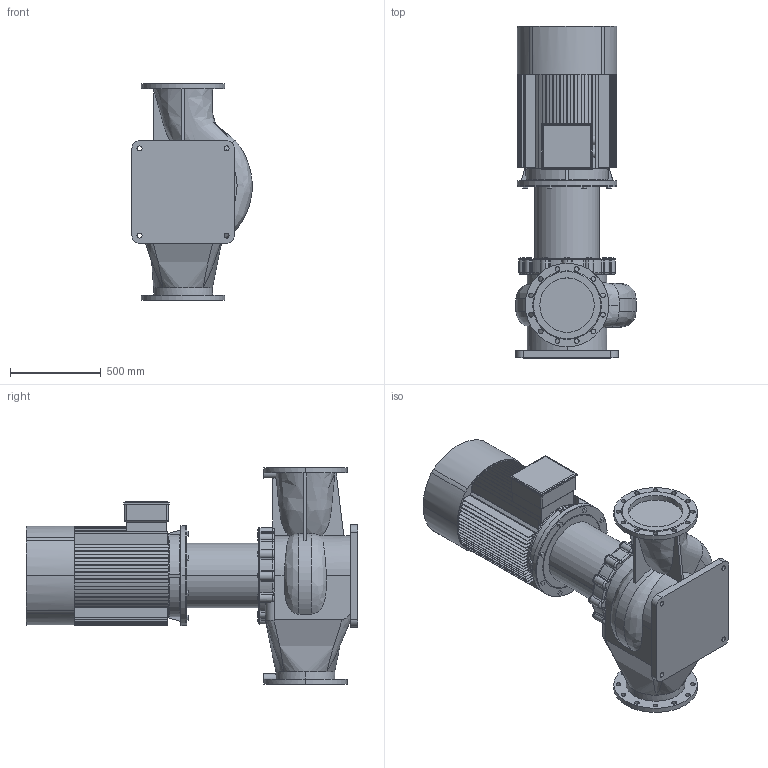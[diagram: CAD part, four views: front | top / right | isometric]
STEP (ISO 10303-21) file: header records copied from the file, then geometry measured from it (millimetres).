
FILE_DESCRIPTION (( 'STEP AP203' ), '1' );
FILE_NAME ('TD300-25_4.STEP', '2022-05-02T18:18:57', ( '' ), ( '' ), 'SwSTEP 2.0', 'SolidWorks 2019', '' );
FILE_SCHEMA (( 'CONFIG_CONTROL_DESIGN' ));
Length unit declared in the file: millimetre
Products named in the file (4): Pr_ch 300_TD300-25_4; TD300-25_4; ED_B5_YE2-280M-4 (90); Fon_300_TD300-25_4
Assembly tree (3 placements, depth 2):
  TD300-25_4
    Pr_ch 300_TD300-25_4
    Fon_300_TD300-25_4
    ED_B5_YE2-280M-4 (90)
Bounding box: 662.62 x 1829 x 1200 mm (x, y, z)
Volume: 389096585.6 mm3; surface area: 9841086.6 mm2
Topology: 5 solids, 5 shells, 882 faces, 2433 edges, 1600 vertices
Faces by surface type: plane 552, cylinder 239, torus 48, bspline 28, cone 15
Entity records: 36979 total; most frequent: CARTESIAN_POINT 13447, DIRECTION 4892, ORIENTED_EDGE 4858, EDGE_CURVE 2429, AXIS2_PLACEMENT_3D 1720, VERTEX_POINT 1600, LINE 1452, VECTOR 1452
